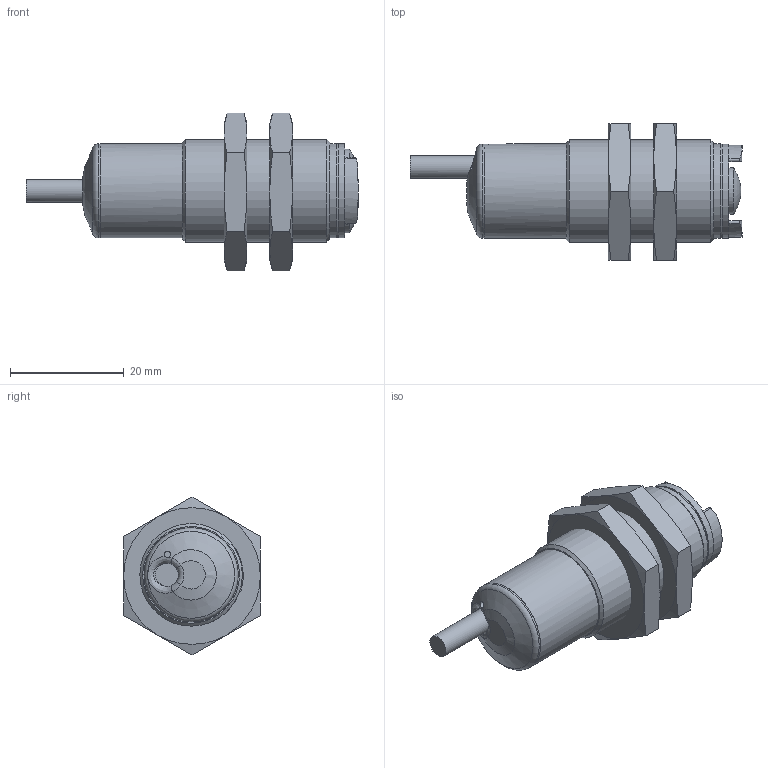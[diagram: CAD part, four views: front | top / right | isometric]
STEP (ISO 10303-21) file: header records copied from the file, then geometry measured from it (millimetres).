
FILE_DESCRIPTION( ( 'Unknown' ), '1' );
FILE_NAME( 'X:/SolidEdge/Models/Dokumentationen/Opto/OR18 Datalogic/vereinfachte Modelle/Neutralformate/OR18.Zx.F-xWxZ.71CV.stp', 'Unknown', ( 'Unknown' ), ( 'Unknown' ), 'PSStep 15.0.49', 'Unknown', ' ' );
FILE_SCHEMA( ( 'AUTOMOTIVE_DESIGN { 1 0 10303 214 1 1 1 1 }' ) );
Length unit declared in the file: millimetre
Products named in the file (3): Assem1; DSD-0700-baumer; DSD-0125_Plastic_Nut_Baumer
Assembly tree (3 placements, depth 2):
  Assem1
    DSD-0700-baumer
    DSD-0125_Plastic_Nut_Baumer  x2
Bounding box: 58.3 x 24 x 27.71 mm (x, y, z)
Volume: 13196.2 mm3; surface area: 5611.8 mm2
Topology: 3 solids, 11 shells, 134 faces, 308 edges, 199 vertices
Faces by surface type: plane 38, cone 36, cylinder 35, bspline 20, torus 3, revolution 2
Full cylindrical faces by diameter (mm): 4 x1, 15.6 x1, 16.5 x2, 16.55 x2, 16.917 x2, 18 x1
Entity records: 7140 total; most frequent: CARTESIAN_POINT 4336, ORIENTED_EDGE 406, DIRECTION 367, EDGE_CURVE 203, AXIS2_PLACEMENT_3D 154, VERTEX_POINT 138, EDGE_LOOP 119, FACE_OUTER_BOUND 107
